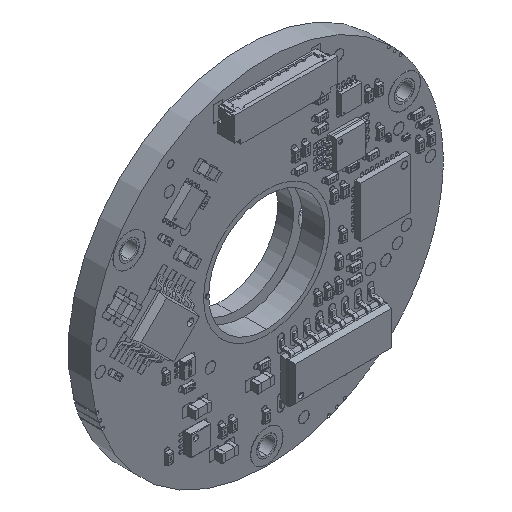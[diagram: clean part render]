
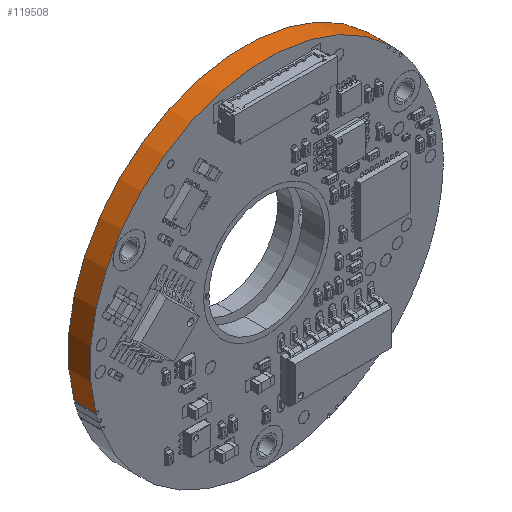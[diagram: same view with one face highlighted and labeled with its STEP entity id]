
A CAD part, isometric view. The second image highlights one B-rep face of the part: STEP entity #119508.
In plain terms, the highlighted cylindrical face has radius 17.5 mm (diameter 35 mm), a partial arc.
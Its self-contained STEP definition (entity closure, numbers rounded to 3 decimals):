
#10031 = DIRECTION ( 'NONE',  ( 0., 1., 0. ) ) ;
#11858 = ORIENTED_EDGE ( 'NONE', *, *, #116502, .F. ) ;
#13423 = CIRCLE ( 'NONE', #63102, 17.5 ) ;
#14076 = EDGE_CURVE ( 'NONE', #35397, #106793, #70372, .T. ) ;
#14459 = DIRECTION ( 'NONE',  ( 0., -1., 0. ) ) ;
#22034 = CIRCLE ( 'NONE', #60029, 17.5 ) ;
#23052 = EDGE_LOOP ( 'NONE', ( #11858, #114708, #110692, #96909 ) ) ;
#26068 = VECTOR ( 'NONE', #59081, 1000. ) ;
#26770 = CARTESIAN_POINT ( 'NONE',  ( 12.173, 0., 12.573 ) ) ;
#33079 = DIRECTION ( 'NONE',  ( 0., 0., 1. ) ) ;
#34058 = CARTESIAN_POINT ( 'NONE',  ( 12.173, 1.085, 12.573 ) ) ;
#34436 = EDGE_CURVE ( 'NONE', #66047, #70244, #36810, .T. ) ;
#35397 = VERTEX_POINT ( 'NONE', #55055 ) ;
#36810 = LINE ( 'NONE', #34058, #48724 ) ;
#38132 = CARTESIAN_POINT ( 'NONE',  ( 0., 0., 0. ) ) ;
#38829 = CYLINDRICAL_SURFACE ( 'NONE', #66953, 17.5 ) ;
#44835 = CARTESIAN_POINT ( 'NONE',  ( 0., 2.17, 0. ) ) ;
#48724 = VECTOR ( 'NONE', #14459, 1000. ) ;
#55055 = CARTESIAN_POINT ( 'NONE',  ( -16.917, 0., -4.481 ) ) ;
#59081 = DIRECTION ( 'NONE',  ( 0., 1., 0. ) ) ;
#59768 = CARTESIAN_POINT ( 'NONE',  ( -16.917, 1.085, -4.481 ) ) ;
#60029 = AXIS2_PLACEMENT_3D ( 'NONE', #38132, #102799, #123926 ) ;
#63102 = AXIS2_PLACEMENT_3D ( 'NONE', #75156, #10031, #33079 ) ;
#66047 = VERTEX_POINT ( 'NONE', #90532 ) ;
#66953 = AXIS2_PLACEMENT_3D ( 'NONE', #44835, #130614, #89805 ) ;
#70244 = VERTEX_POINT ( 'NONE', #26770 ) ;
#70372 = LINE ( 'NONE', #59768, #26068 ) ;
#75156 = CARTESIAN_POINT ( 'NONE',  ( 0., 2.17, 0. ) ) ;
#89805 = DIRECTION ( 'NONE',  ( 0., 0., -1. ) ) ;
#90532 = CARTESIAN_POINT ( 'NONE',  ( 12.173, 2.17, 12.573 ) ) ;
#96909 = ORIENTED_EDGE ( 'NONE', *, *, #34436, .F. ) ;
#102799 = DIRECTION ( 'NONE',  ( 0., 1., 0. ) ) ;
#106793 = VERTEX_POINT ( 'NONE', #118171 ) ;
#108123 = FACE_OUTER_BOUND ( 'NONE', #23052, .T. ) ;
#110692 = ORIENTED_EDGE ( 'NONE', *, *, #131836, .T. ) ;
#114708 = ORIENTED_EDGE ( 'NONE', *, *, #14076, .F. ) ;
#116502 = EDGE_CURVE ( 'NONE', #106793, #66047, #13423, .T. ) ;
#118171 = CARTESIAN_POINT ( 'NONE',  ( -16.917, 2.17, -4.481 ) ) ;
#119508 = ADVANCED_FACE ( 'NONE', ( #108123 ), #38829, .T. ) ;
#123926 = DIRECTION ( 'NONE',  ( 0., 0., 1. ) ) ;
#130614 = DIRECTION ( 'NONE',  ( 0., -1., 0. ) ) ;
#131836 = EDGE_CURVE ( 'NONE', #35397, #70244, #22034, .T. ) ;
